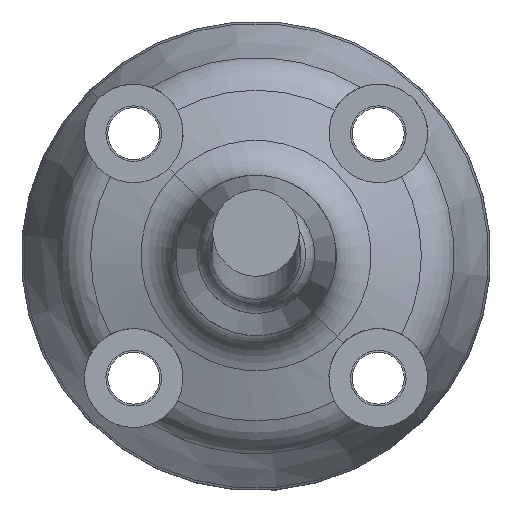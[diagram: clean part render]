
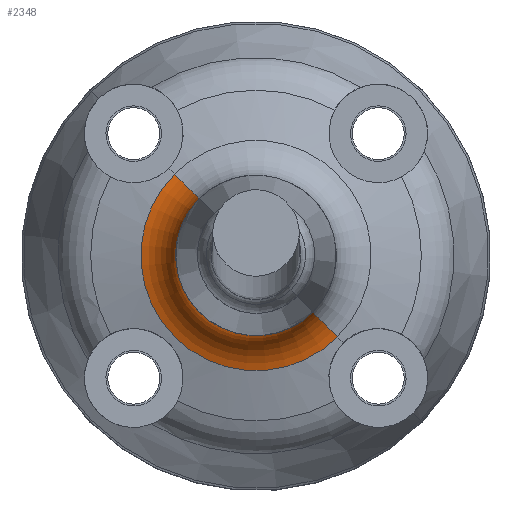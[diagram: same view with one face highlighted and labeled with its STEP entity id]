
A CAD part, top view. The second image highlights one B-rep face of the part: STEP entity #2348.
In plain terms, the highlighted toroidal (fillet/blend) face has major radius 10.5 mm and minor radius 4 mm.
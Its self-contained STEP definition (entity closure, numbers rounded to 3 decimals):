
#102 = EDGE_CURVE ( 'NONE', #5502, #207, #12109, .T. ) ;
#207 = VERTEX_POINT ( 'NONE', #4612 ) ;
#243 = DIRECTION ( 'NONE',  ( 0., 1., 0. ) ) ;
#866 = DIRECTION ( 'NONE',  ( 0., 0., 1. ) ) ;
#1029 = EDGE_CURVE ( 'NONE', #4179, #207, #10414, .T. ) ;
#1079 = CIRCLE ( 'NONE', #6878, 9.32 ) ;
#1208 = ORIENTED_EDGE ( 'NONE', *, *, #1029, .T. ) ;
#1315 = CARTESIAN_POINT ( 'NONE',  ( 10.519, 20.88, 0. ) ) ;
#1370 = DIRECTION ( 'NONE',  ( -1., 0., 0. ) ) ;
#1624 = CARTESIAN_POINT ( 'NONE',  ( 1.198, 20.88, 0. ) ) ;
#1706 = CIRCLE ( 'NONE', #9233, 4. ) ;
#2322 = ORIENTED_EDGE ( 'NONE', *, *, #102, .F. ) ;
#2348 = ADVANCED_FACE ( 'NONE', ( #10657 ), #3543, .F. ) ;
#3114 = AXIS2_PLACEMENT_3D ( 'NONE', #11526, #9581, #1370 ) ;
#3543 = TOROIDAL_SURFACE ( 'NONE', #3114, 10.5, 4. ) ;
#3639 = CARTESIAN_POINT ( 'NONE',  ( 10.519, 17.058, 0. ) ) ;
#4171 = AXIS2_PLACEMENT_3D ( 'NONE', #3639, #11585, #9639 ) ;
#4179 = VERTEX_POINT ( 'NONE', #12200 ) ;
#4197 = ORIENTED_EDGE ( 'NONE', *, *, #4868, .F. ) ;
#4612 = CARTESIAN_POINT ( 'NONE',  ( 4.019, 17.058, 0. ) ) ;
#4868 = EDGE_CURVE ( 'NONE', #10317, #5502, #1079, .T. ) ;
#5225 = DIRECTION ( 'NONE',  ( 0., 1., 0. ) ) ;
#5502 = VERTEX_POINT ( 'NONE', #1624 ) ;
#6878 = AXIS2_PLACEMENT_3D ( 'NONE', #1315, #5225, #12287 ) ;
#7110 = DIRECTION ( 'NONE',  ( 1., 0., 0. ) ) ;
#7156 = AXIS2_PLACEMENT_3D ( 'NONE', #9338, #12495, #243 ) ;
#9233 = AXIS2_PLACEMENT_3D ( 'NONE', #11155, #866, #7110 ) ;
#9338 = CARTESIAN_POINT ( 'NONE',  ( 0.019, 17.058, 0. ) ) ;
#9581 = DIRECTION ( 'NONE',  ( 0., 1., 0. ) ) ;
#9639 = DIRECTION ( 'NONE',  ( -1., 0., 0. ) ) ;
#10317 = VERTEX_POINT ( 'NONE', #10938 ) ;
#10391 = EDGE_LOOP ( 'NONE', ( #4197, #12018, #1208, #2322 ) ) ;
#10414 = CIRCLE ( 'NONE', #4171, 6.5 ) ;
#10657 = FACE_OUTER_BOUND ( 'NONE', #10391, .T. ) ;
#10938 = CARTESIAN_POINT ( 'NONE',  ( 19.839, 20.88, 0. ) ) ;
#11062 = EDGE_CURVE ( 'NONE', #10317, #4179, #1706, .T. ) ;
#11155 = CARTESIAN_POINT ( 'NONE',  ( 21.019, 17.058, 0. ) ) ;
#11526 = CARTESIAN_POINT ( 'NONE',  ( 10.519, 17.058, 0. ) ) ;
#11585 = DIRECTION ( 'NONE',  ( 0., 1., 0. ) ) ;
#12018 = ORIENTED_EDGE ( 'NONE', *, *, #11062, .T. ) ;
#12109 = CIRCLE ( 'NONE', #7156, 4. ) ;
#12200 = CARTESIAN_POINT ( 'NONE',  ( 17.019, 17.058, 0. ) ) ;
#12287 = DIRECTION ( 'NONE',  ( -1., 0., 0. ) ) ;
#12495 = DIRECTION ( 'NONE',  ( 0., 0., -1. ) ) ;
